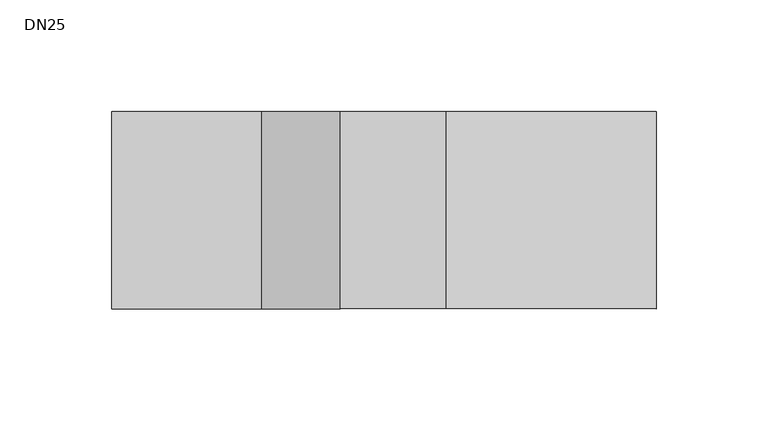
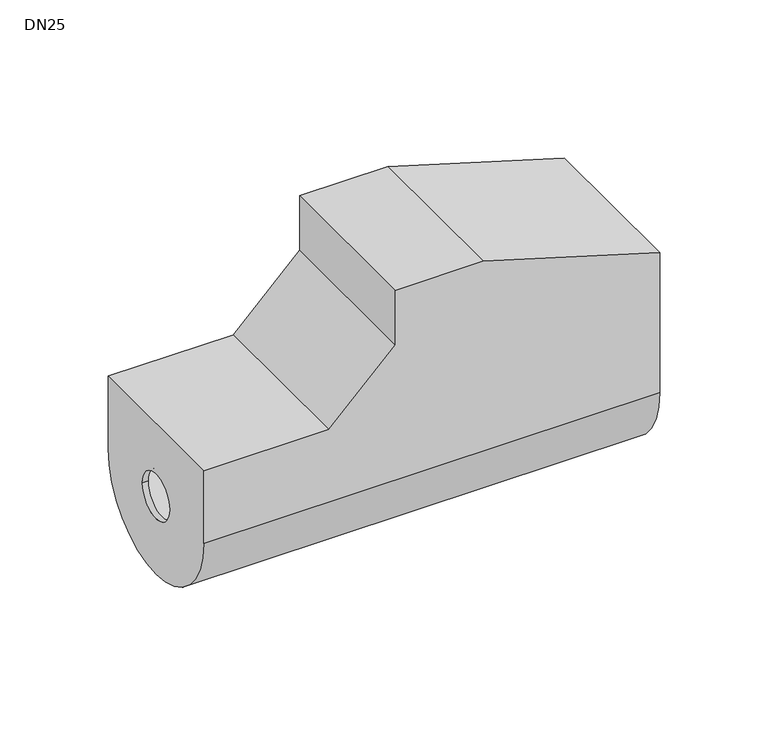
"""IFC4 building model written with IfcOpenShell, lengths in millimetres: valve geometry, 400_5-_KOMF_Isolatieschaal_DN20-50 : DN25."""

from ifc_helpers import new_model, si_unit, frame, origin, place, context, project, spatial, polyline, circle_curve, source, transform, mapped, element, save
from ifc_brep_helpers import plane_surface, cylinder_surface, revolved_surface, advanced_brep


def dn25_fd29e4d5(model_context):
    return source(origin(), model_context, "Body", "AdvancedBrep", [
        advanced_brep(
        [(0.0, 44.0, 107.0), (47.0, 44.0, 107.0), (141.0, 44.0, 78.9711306), (141.0, 44.0, 0.0), (-102.0, 44.0, 0.0), (-102.0, 44.0, 41.0), (-35.3553391, 44.0, 41.0), (0.0, 44.0, 76.3553391), (141.0, -44.0, 78.9711306), (47.0, -44.0, 107.0), (0.0, -44.0, 107.0), (0.0, -44.0, 76.3553391), (-35.3553391, -44.0, 41.0), (-102.0, -44.0, 41.0), (-102.0, -44.0, 0.0), (141.0, -44.0, 0.0), (-102.0, 0.0, -44.0), (-102.0, -12.4999998, -4e-07), (-102.0, 12.5000002, -4e-07), (141.0, 0.0, -44.0), (141.0, 12.5000002, -4e-07), (141.0, -12.4999998, -4e-07), (-99.0, -12.4999998, -4e-07), (-99.0, 12.5000002, -4e-07), (138.0, 12.5000002, -4e-07), (138.0, -12.4999998, -4e-07), (138.0, 41.0, 0.0), (138.0, -41.0, 0.0), (138.0, -41.0, 76.6843036), (138.0, 41.0, 76.6843036), (-99.0, -41.0, 38.0), (-99.0, -41.0, 0.0), (-99.0, 41.0, 0.0), (-99.0, 41.0, 38.0), (-34.1126984, -41.0, 38.0), (3.0, -41.0, 75.1126984), (3.0, -41.0, 104.0), (46.5953113, -41.0, 104.0), (46.5953113, 41.0, 104.0), (3.0, 41.0, 104.0), (3.0, 41.0, 75.1126984), (-34.1126984, 41.0, 38.0)],
        [
            (0, 1),
            (1, 2),
            (2, 3),
            (3, 4),
            (4, 5),
            (5, 6),
            (6, 7),
            (7, 0),
            (8, 9),
            (9, 10),
            (10, 11),
            (11, 12),
            (12, 13),
            (13, 14),
            (14, 15),
            (15, 8),
            (13, 5),
            (4, 16, circle_curve(frame((-102.0, 0.0, 0.0), z_axis=(-1.0, 0.0, 0.0), x_axis=(0.0, 1.0, 0.0)), 44.0)),
            (16, 14, circle_curve(frame((-102.0, 0.0, 0.0), z_axis=(-1.0, 0.0, 0.0), x_axis=(0.0, 1.0, 0.0)), 44.0)),
            (17, 18, circle_curve(frame((-102.0, 2e-07, -4e-07), z_axis=(1.0, 0.0, 0.0), x_axis=(0.0, 1.0, 0.0)), 12.5)),
            (18, 17, circle_curve(frame((-102.0, 2e-07, -4e-07), z_axis=(1.0, 0.0, 0.0), x_axis=(0.0, 1.0, 0.0)), 12.5)),
            (12, 6),
            (10, 0),
            (7, 11),
            (9, 1),
            (8, 2),
            (15, 19, circle_curve(frame((141.0, 0.0, 0.0), z_axis=(1.0, 0.0, 0.0), x_axis=(0.0, 1.0, 0.0)), 44.0)),
            (19, 3, circle_curve(frame((141.0, 0.0, 0.0), z_axis=(1.0, 0.0, 0.0), x_axis=(0.0, 1.0, 0.0)), 44.0)),
            (20, 21, circle_curve(frame((141.0, 2e-07, -4e-07), z_axis=(-1.0, 0.0, 0.0), x_axis=(0.0, 1.0, 0.0)), 12.5)),
            (21, 20, circle_curve(frame((141.0, 2e-07, -4e-07), z_axis=(-1.0, 0.0, 0.0), x_axis=(0.0, 1.0, 0.0)), 12.5)),
            (17, 22),
            (22, 23, circle_curve(frame((-99.0, 2e-07, -4e-07), z_axis=(1.0, 0.0, 0.0), x_axis=(0.0, 1.0, 0.0)), 12.5)),
            (23, 18),
            (20, 24),
            (24, 25, circle_curve(frame((138.0, 2e-07, -4e-07), z_axis=(-1.0, 0.0, 0.0), x_axis=(0.0, 1.0, 0.0)), 12.5)),
            (25, 21),
            (23, 22, circle_curve(frame((-99.0, 2e-07, -4e-07), z_axis=(1.0, 0.0, 0.0), x_axis=(0.0, 1.0, 0.0)), 12.5)),
            (25, 24, circle_curve(frame((138.0, 2e-07, -4e-07), z_axis=(-1.0, 0.0, 0.0), x_axis=(0.0, 1.0, 0.0)), 12.5)),
            (26, 27, circle_curve(frame((138.0, 0.0, 0.0), z_axis=(-1.0, 0.0, 0.0), x_axis=(0.0, 1.0, 0.0)), 41.0)),
            (27, 28),
            (28, 29),
            (29, 26),
            (30, 31),
            (31, 32, circle_curve(frame((-99.0, 0.0, 0.0), z_axis=(1.0, 0.0, 0.0), x_axis=(0.0, 1.0, 0.0)), 41.0)),
            (32, 33),
            (33, 30),
            (30, 34),
            (34, 35),
            (35, 36),
            (36, 37),
            (37, 28),
            (27, 31),
            (26, 32),
            (29, 38),
            (38, 39),
            (39, 40),
            (40, 41),
            (41, 33),
            (41, 34),
            (39, 36),
            (35, 40),
            (37, 38),
        ],
        [
            plane_surface(frame((-102.0, 44.0, -44.0), z_axis=(0.0, 1.0, 0.0), x_axis=(0.0, 0.0, 1.0))),
            plane_surface(frame((-102.0, -44.0, -44.0), z_axis=(0.0, -1.0, 0.0), x_axis=(0.0, 0.0, -1.0))),
            plane_surface(frame((-102.0, 44.0, -44.0), z_axis=(-1.0, 0.0, 0.0), x_axis=(0.0, -1.0, 0.0))),
            plane_surface(frame((-102.0, 44.0, 41.0), z_axis=(0.0, 0.0, 1.0), x_axis=(0.0, -1.0, 0.0))),
            plane_surface(frame((0.0, 44.0, 41.0), z_axis=(-1.0, 0.0, 0.0), x_axis=(0.0, -1.0, 0.0))),
            plane_surface(frame((0.0, 44.0, 107.0), z_axis=(0.0, 0.0, 1.0), x_axis=(0.0, -1.0, 0.0))),
            plane_surface(frame((47.0, 44.0, 107.0), z_axis=(0.28574690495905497, 0.0, 0.9583051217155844), x_axis=(0.0, -1.0, 0.0))),
            plane_surface(frame((141.0, 44.0, 78.9711306), z_axis=(1.0, 0.0, 0.0), x_axis=(0.0, -1.0, 0.0))),
            revolved_surface(polyline([(-99.0, 12.5000002, -4e-07), (-102.0, 12.5000002, -4e-07)]), (-102.0, 2e-07, -4e-07), (1.0, 0.0, 0.0)),
            revolved_surface(polyline([(141.0, 12.5000002, -4e-07), (138.0, 12.5000002, -4e-07)]), (-102.0, 2e-07, -4e-07), (1.0, 0.0, 0.0)),
            plane_surface(frame((0.0, -44.0, 76.3553391), z_axis=(-0.707106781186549, 0.0, 0.7071067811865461), x_axis=(0.0, 1.0, 0.0))),
            cylinder_surface(frame((-102.0, 0.0, 0.0), z_axis=(-1.0, 0.0, 0.0), x_axis=(0.0, 1.0, 0.0)), 44.0),
            plane_surface(frame((138.0, -41.0, 38.0), z_axis=(-1.0, 0.0, 0.0), x_axis=(0.0, 0.0, -1.0))),
            plane_surface(frame((-99.0, -41.0, 38.0), z_axis=(1.0, 0.0, 0.0), x_axis=(0.0, 0.0, 1.0))),
            plane_surface(frame((138.0, -41.0, 38.0), z_axis=(0.0, 1.0, 0.0), x_axis=(-1.0, 0.0, 0.0))),
            revolved_surface(polyline([(138.0, 41.0, 0.0), (-99.0, 41.0, 0.0)]), (-99.0, 0.0, 0.0), (1.0, 0.0, 0.0)),
            plane_surface(frame((138.0, 41.0, 0.0), z_axis=(0.0, -1.0, 0.0), x_axis=(-1.0, 0.0, 0.0))),
            plane_surface(frame((138.0, 41.0, 38.0), z_axis=(0.0, 0.0, -1.0), x_axis=(-1.0, 0.0, 0.0))),
            plane_surface(frame((3.0, -41.0, 104.0), z_axis=(1.0, 0.0, 0.0), x_axis=(0.0, 1.0, 0.0))),
            plane_surface(frame((138.0, -41.0, 76.6843036), z_axis=(-0.2863311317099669, 0.0, -0.9581307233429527), x_axis=(0.0, 1.0, 0.0))),
            plane_surface(frame((46.5953113, -41.0, 104.0), z_axis=(0.0, 0.0, -1.0), x_axis=(0.0, 1.0, 0.0))),
            plane_surface(frame((3.0, -41.0, 75.1126984), z_axis=(0.7071067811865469, 0.0, -0.7071067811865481), x_axis=(0.0, 1.0, 0.0))),
        ],
        [
            (0, [[1, 2, 3, 4, 5, 6, 7, 8]]),
            (1, [[9, 10, 11, 12, 13, 14, 15, 16]]),
            (2, [[17, -5, 18, 19, -14], [20, 21]]),
            (3, [[-17, -13, 22, -6]]),
            (4, [[23, -8, 24, -11]]),
            (5, [[-1, -23, -10, 25]]),
            (6, [[-2, -25, -9, 26]]),
            (7, [[-26, -16, 27, 28, -3], [29, 30]]),
            (8, [[-20, 31, 32, 33]]),
            (9, [[-29, 34, 35, 36]]),
            (8, [[-21, -33, 37, -31]]),
            (9, [[-30, -36, 38, -34]]),
            (10, [[-12, -24, -7, -22]]),
            (11, [[-4, -28, -27, -15, -19, -18]]),
            (12, [[39, 40, 41, 42], [-35, -38]]),
            (13, [[43, 44, 45, 46], [-32, -37]]),
            (14, [[-43, 47, 48, 49, 50, 51, -40, 52]]),
            (15, [[-39, 53, -44, -52]]),
            (16, [[-45, -53, -42, 54, 55, 56, 57, 58]]),
            (17, [[-46, -58, 59, -47]]),
            (18, [[60, -49, 61, -56]]),
            (19, [[-51, 62, -54, -41]]),
            (20, [[-50, -60, -55, -62]]),
            (21, [[-48, -59, -57, -61]]),
        ],
    ),
    ])


if __name__ == "__main__":
    model = new_model("IFC4")
    model_context = context("Model", 3, world=origin())
    ifc_project = project(units=[si_unit("LENGTHUNIT", "METRE", prefix="MILLI")], contexts=[model_context])
    site = spatial("IfcSite", under=ifc_project)
    building = spatial("IfcBuilding", under=site)
    placement = place(None, origin())
    dn25_shape = dn25_fd29e4d5(model_context)
    element("IfcValve", 1, ObjectType="400_5-_KOMF_Isolatieschaal_DN20-50 : DN25", at=placement, inside=building, context=model_context, shape_type="MappedRepresentation", body=[
        mapped(dn25_shape, transform((0.0, 0.0, 0.0), x_axis=(1.0, 0.0, 0.0), y_axis=(0.0, 1.0, 0.0), z_axis=(0.0, 0.0, 1.0))),
    ])
    save(model, "model.ifc")
